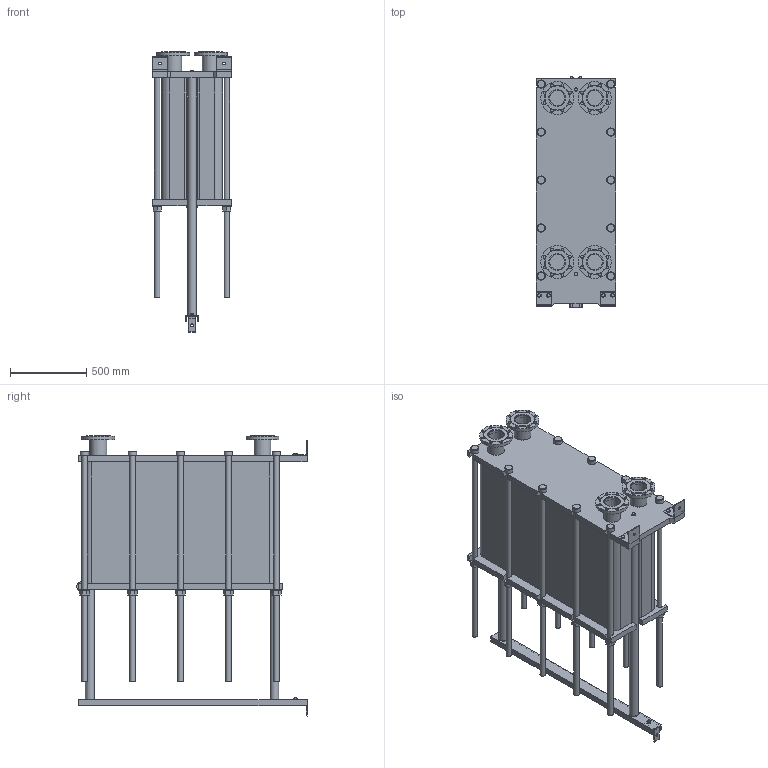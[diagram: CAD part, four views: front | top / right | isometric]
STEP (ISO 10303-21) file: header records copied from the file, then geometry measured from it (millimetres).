
FILE_DESCRIPTION(/* description */ (''),/* implementation_level */ '2;1');
FILE_NAME(/* name */ 'C:\Users\zhuro\Desktop\ENCO\TO\ЭН-04\ЭН-0,5-04-231-1.stp',/* time_stamp */ '2022-06-06T11:05:44+03:00',/* author */ ('zhuro'),/* organization */ (''),/* preprocessor_version */ 'ST-DEVELOPER v18.1',/* originating_system */ 'Autodesk Inventor 2022',/* authorisation */ '');
FILE_SCHEMA (('AUTOMOTIVE_DESIGN { 1 0 10303 214 3 1 1 }'));
Length unit declared in the file: millimetre
Products named in the file (1): ЭН-0,5-04-231-1
Bounding box: 520 x 1510 x 1835.5 mm (x, y, z)
Volume: 476538386 mm3; surface area: 11235964.3 mm2
Topology: 45 solids, 45 shells, 668 faces, 1611 edges, 1048 vertices
Faces by surface type: plane 457, cylinder 166, cone 39, torus 6
Full cylindrical faces by diameter (mm): 8 x4, 10 x2, 16 x8, 18 x35, 36 x25, 40 x2, 42 x1, 45 x4, 54 x10, 57 x2, 60 x10, 68 x2, 100 x4, 110 x8, 215 x4
Entity records: 23607 total; most frequent: CARTESIAN_POINT 7348, DIRECTION 3371, ORIENTED_EDGE 3142, EDGE_CURVE 1571, AXIS2_PLACEMENT_3D 1199, VERTEX_POINT 1044, LINE 973, VECTOR 973
